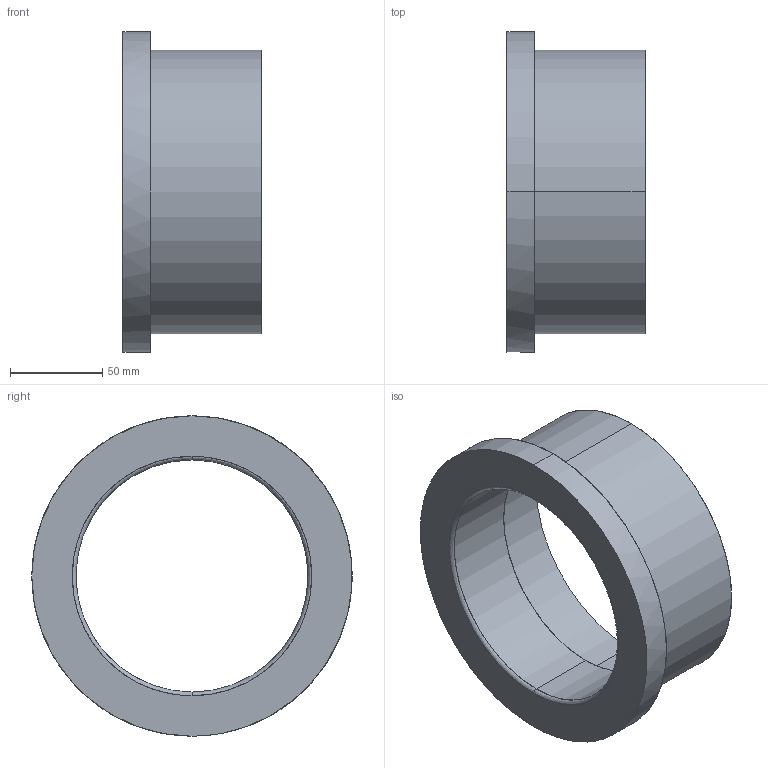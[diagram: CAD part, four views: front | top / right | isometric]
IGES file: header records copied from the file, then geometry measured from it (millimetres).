
Start section: SolidWorks IGES file using analytic representation for surfaces
Global section: file name: \\Datacenterrd1\@研發部\設計一課(冷媒)\(1)-文管中心\(2)-3D文管\(8)-Compressor 3Doutline(Surface)\Pipe\IGS\5(5鋼管用).IGS; native system: SolidWorks 2013; preprocessor: SolidWorks 2013; author: hedylu; date: 140715.091437; units: millimetre
Bounding box: 75 x 174 x 174 mm (x, y, z)
Surface area: 89955.2 mm2 (no closed solid volume)
Topology: 0 solids, 0 shells, 18 faces, 568 edges, 568 vertices
Faces by surface type: revolution 10, bspline 8
